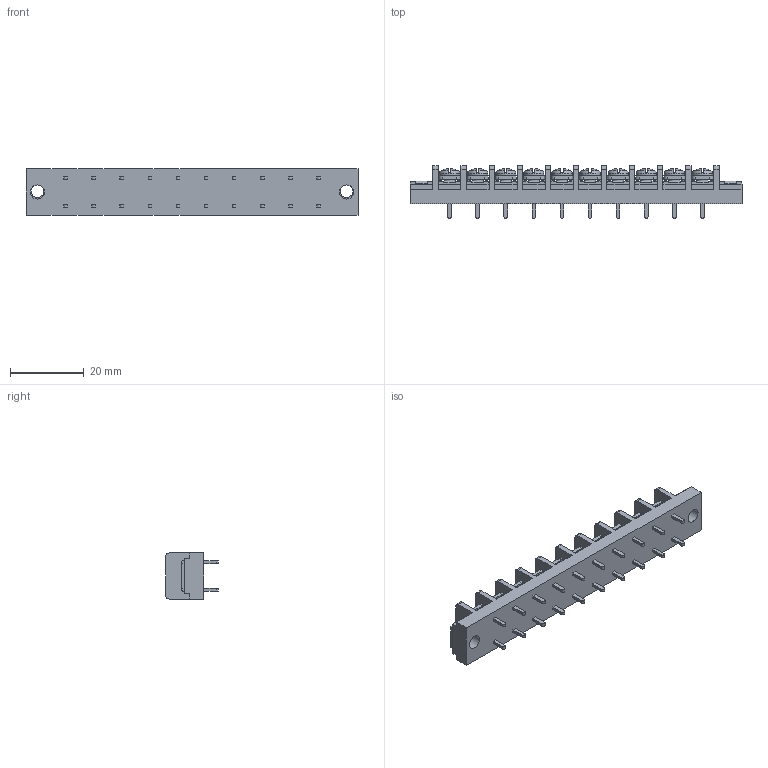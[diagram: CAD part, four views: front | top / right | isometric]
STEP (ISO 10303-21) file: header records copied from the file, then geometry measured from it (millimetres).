
FILE_DESCRIPTION(/* description */ ('Alibre Inc.'),/* implementation_level */ '2;1');
FILE_NAME(/* name */ 'export0',/* time_stamp */ '2015-10-26T18:31:17+09:00',/* author */ (''),/* organization */ (''),/* preprocessor_version */ 'ST-DEVELOPER v14',/* originating_system */ 'Alibre',/* authorisation */ '');
FILE_SCHEMA (('CONFIG_CONTROL_DESIGN'));
Length unit declared in the file: centimetre
Products named in the file (1): ID_1
Bounding box: 90.02 x 14.3 x 12.5 mm (x, y, z)
Volume: 7786.8 mm3; surface area: 7117.6 mm2
Topology: 1 solids, 17 shells, 1446 faces, 3916 edges, 2576 vertices
Faces by surface type: plane 1132, cylinder 130, bspline 104, cone 40, torus 20, sphere 20
Full cylindrical faces by diameter (mm): 3 x10, 3.5 x2, 3.8 x2, 5.5 x10
Entity records: 42865 total; most frequent: CARTESIAN_POINT 9139, ORIENTED_EDGE 7696, DIRECTION 5362, EDGE_CURVE 3848, VECTOR 2776, LINE 2776, VERTEX_POINT 2552, AXIS2_PLACEMENT_3D 1803
